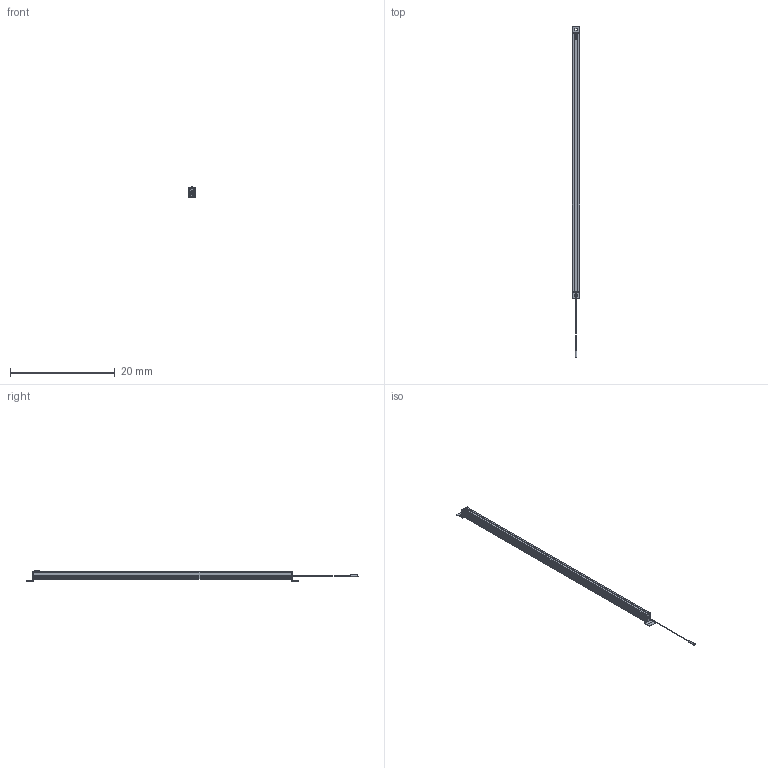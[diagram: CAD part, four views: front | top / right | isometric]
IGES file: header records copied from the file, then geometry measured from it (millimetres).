
Start section:  Autodesk DirectConnect version 7.0.27.0 ---- IGES version 5.3
Global section: file name: C:\ACADFILES\SS_PYLONS\CUSTOMER_FILES\SS-48-PYLON_3D_L.iges; native system: Autodesk DirectConnect 7.0.27.0; preprocessor: 7.0.27.0; author: ENGINEERMAIN; organization: Unknown; date: 20150810.125355; units: millimetre
Bounding box: 1.46 x 63.52 x 2.11 mm (x, y, z)
Surface area: 739.8 mm2 (no closed solid volume)
Topology: 0 solids, 0 shells, 475 faces, 2604 edges, 2623 vertices
Faces by surface type: bspline 475
